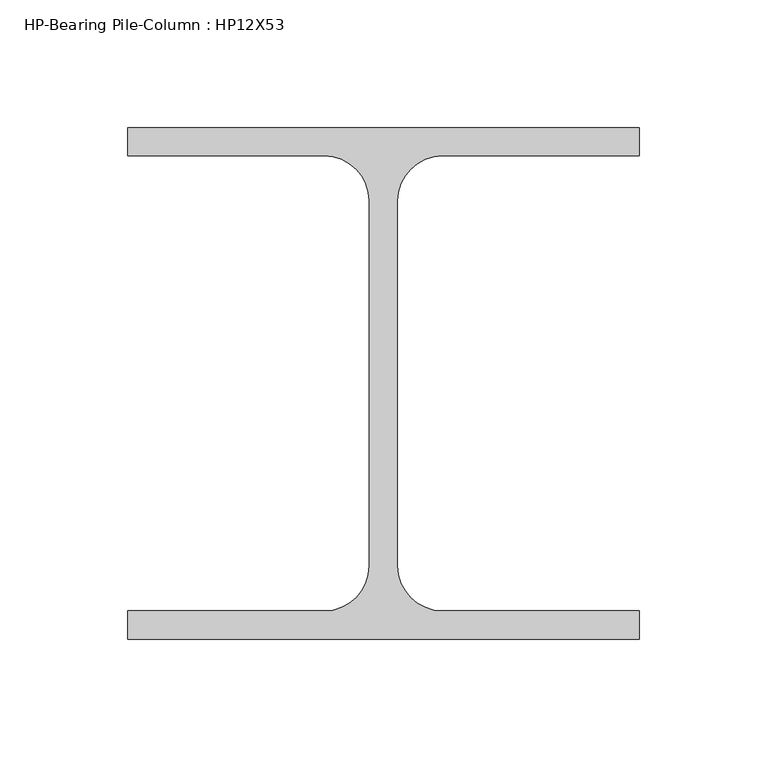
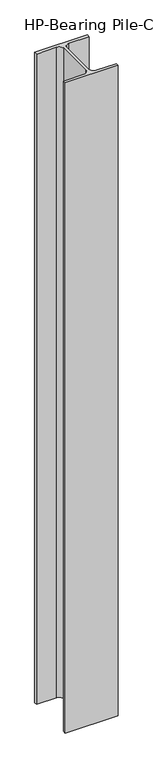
"""IFC4 building model written with IfcOpenShell, lengths in millimetres: column geometry, HP-Bearing Pile-Column : HP12X53."""

from ifc_helpers import new_model, si_unit, point, frame_2d, origin, origin_with_axes, place, context, project, spatial, polyline, circle_curve, trimmed, segment, composite_curve, outline, extrude, source, transform, mapped, element, save


def hp_bearing_pile_column_hp12x53_9b5aabf1(model_context):
    return source(origin(), model_context, "Body", "SweptSolid", [
        extrude(outline(composite_curve([segment(polyline([(100.0, 100.0), (100.0, 89.0), (23.1, 89.0)]), True, "CONTINUOUS"), segment(trimmed(circle_curve(frame_2d((23.1, 71.4)), 17.6), [point((23.1, 89.0))], [point((5.5, 71.4))], True, "CARTESIAN"), True, "CONTINUOUS"), segment(polyline([(5.5, 71.4), (5.5, -71.4)]), True, "CONTINUOUS"), segment(trimmed(circle_curve(frame_2d((23.1, -71.4)), 17.6), [point((5.5, -71.4))], [point((23.1, -89.0))], True, "CARTESIAN"), True, "CONTINUOUS"), segment(polyline([(23.1, -89.0), (100.0, -89.0), (100.0, -100.0), (-100.0, -100.0), (-100.0, -89.0), (-23.1, -89.0)]), True, "CONTINUOUS"), segment(trimmed(circle_curve(frame_2d((-23.1, -71.4)), 17.6), [point((-23.1, -89.0))], [point((-5.5, -71.4))], True, "CARTESIAN"), True, "CONTINUOUS"), segment(polyline([(-5.5, -71.4), (-5.5, 71.4)]), True, "CONTINUOUS"), segment(trimmed(circle_curve(frame_2d((-23.1, 71.4)), 17.6), [point((-5.5, 71.4))], [point((-23.1, 89.0))], True, "CARTESIAN"), True, "CONTINUOUS"), segment(polyline([(-23.1, 89.0), (-100.0, 89.0), (-100.0, 100.0), (100.0, 100.0)]), True, "CONTINUOUS")], self_intersect=False)), origin_with_axes(), (0.0, 0.0, 1.0), 2600.0),
    ])


if __name__ == "__main__":
    model = new_model("IFC4")
    model_context = context("Model", 3, world=origin())
    ifc_project = project(units=[si_unit("LENGTHUNIT", "METRE", prefix="MILLI")], contexts=[model_context])
    site = spatial("IfcSite", under=ifc_project)
    building = spatial("IfcBuilding", under=site)
    placement = place(None, origin())
    hp_bearing_pile_column_hp12x53_shape = hp_bearing_pile_column_hp12x53_9b5aabf1(model_context)
    element("IfcColumn", 1, ObjectType="HP-Bearing Pile-Column : HP12X53", at=placement, inside=building, context=model_context, shape_type="MappedRepresentation", body=[
        mapped(hp_bearing_pile_column_hp12x53_shape, transform((0.0, 0.0, 0.0), x_axis=(1.0, 0.0, 0.0), y_axis=(0.0, 1.0, 0.0), z_axis=(0.0, 0.0, 1.0))),
    ])
    save(model, "model.ifc")
